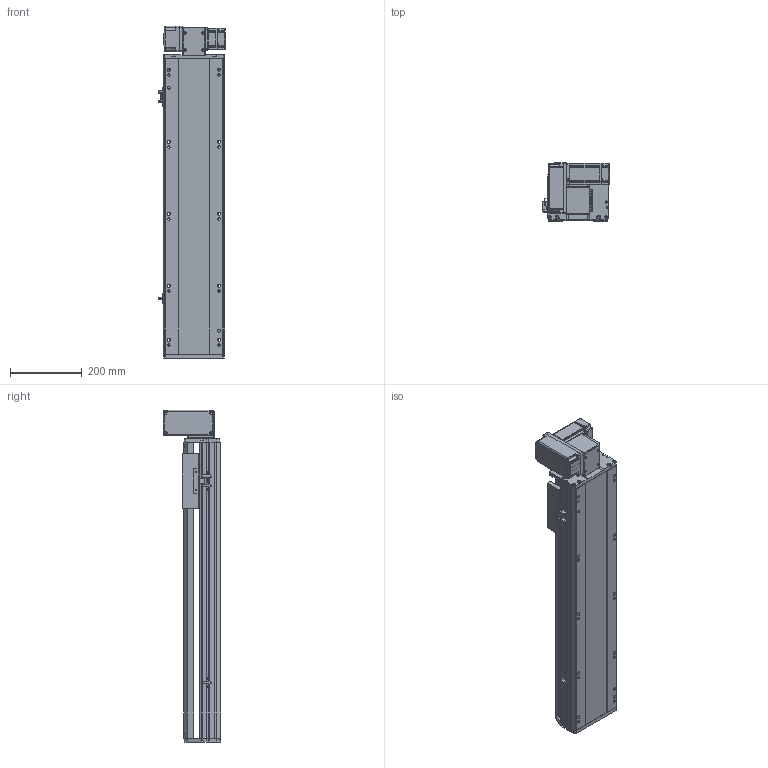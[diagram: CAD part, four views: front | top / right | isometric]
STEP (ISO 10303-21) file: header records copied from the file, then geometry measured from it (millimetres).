
FILE_DESCRIPTION (( 'STEP AP214' ), '1' );
FILE_NAME ('RTB17S-XX-550-LW-M40-C4.STEP', '2025-12-11T06:58:48', ( '' ), ( '' ), 'SwSTEP 2.0', 'SolidWorks 2018', '' );
FILE_SCHEMA (( 'AUTOMOTIVE_DESIGN' ));
Length unit declared in the file: millimetre
Products named in the file (14): RTB17S-L-014-T20--々湍釱^RTB17S-LW-々湍釱蚾饜-400W_RTB17S-XX-XX-LW-M40-C4; RTB14-L-018P^RTB17S-LW-々湍釱蚾饜-400W_RTB17S-XX-XX-LW-M40-C4; OMRON EE-SX672 传感器^RTB17S-XX-XX-LW-M40-C4; RTB17S-L-001耜醱啣^RTB17S-XX-XX-LW-M40-C4; RTB17S-L-004佪裝蹟譫蟀諉釱^RTB17S-XX-XX-LW-M40-C4; RTB17-R-011菁釱^RTB17S-XX-XX-LW-M40-C4; RTB14-L-008-M20--萇儂啣^RTB17S-LW-々湍釱蚾饜-400W_RTB17S-XX-XX-LW-M40-C4; 400W侜督萇儂^RTB17S-XX-XX-LW-M40-C4; RTB14-L-017P^RTB17S-LW-々湍釱蚾饜-400W_RTB17S-XX-XX-LW-M40-C4; RTB17S-L-007奻裔^RTB17S-XX-XX-LW-M40-C4; RTB14-L-005P--轴承塑胶压盖^RTB17S-LW-皮带座装配-400W_RTB17S-XX-XX-LW-M40-C4; RTH13-BL-012覜茼え俋离^RTB17S-XX-XX-LW-M40-C4; RTB17S-XX-550-LW-M40-C4; RTB17S-LW-々湍釱蚾饜-400W^RTB17S-XX-XX-LW-M40-C4
Assembly tree (16 placements, depth 3):
  RTB17S-XX-550-LW-M40-C4
    RTB17-R-011菁釱^RTB17S-XX-XX-LW-M40-C4
    RTB17S-L-007奻裔^RTB17S-XX-XX-LW-M40-C4
    OMRON EE-SX672 传感器^RTB17S-XX-XX-LW-M40-C4  x3
    RTB17S-L-001耜醱啣^RTB17S-XX-XX-LW-M40-C4
    400W侜督萇儂^RTB17S-XX-XX-LW-M40-C4
    RTB17S-L-004佪裝蹟譫蟀諉釱^RTB17S-XX-XX-LW-M40-C4
    RTH13-BL-012覜茼え俋离^RTB17S-XX-XX-LW-M40-C4
    RTB17S-LW-々湍釱蚾饜-400W^RTB17S-XX-XX-LW-M40-C4
      RTB17S-L-014-T20--々湍釱^RTB17S-LW-々湍釱蚾饜-400W_RTB17S-XX-XX-LW-M40-C4
      RTB14-L-005P--轴承塑胶压盖^RTB17S-LW-皮带座装配-400W_RTB17S-XX-XX-LW-M40-C4
      RTB14-L-008-M20--萇儂啣^RTB17S-LW-々湍釱蚾饜-400W_RTB17S-XX-XX-LW-M40-C4
      RTB14-L-017P^RTB17S-LW-々湍釱蚾饜-400W_RTB17S-XX-XX-LW-M40-C4  x2
      RTB14-L-018P^RTB17S-LW-々湍釱蚾饜-400W_RTB17S-XX-XX-LW-M40-C4
Bounding box: 186 x 160.5 x 922.5 mm (x, y, z)
Volume: 8704659.7 mm3; surface area: 1097883.7 mm2
Topology: 15 solids, 15 shells, 2173 faces, 5979 edges, 3897 vertices
Faces by surface type: plane 1064, cylinder 661, bspline 301, cone 139, torus 8
Entity records: 61097 total; most frequent: CARTESIAN_POINT 16984, ORIENTED_EDGE 8802, DIRECTION 8216, EDGE_CURVE 4401, VERTEX_POINT 2885, AXIS2_PLACEMENT_3D 2815, LINE 2586, VECTOR 2586
